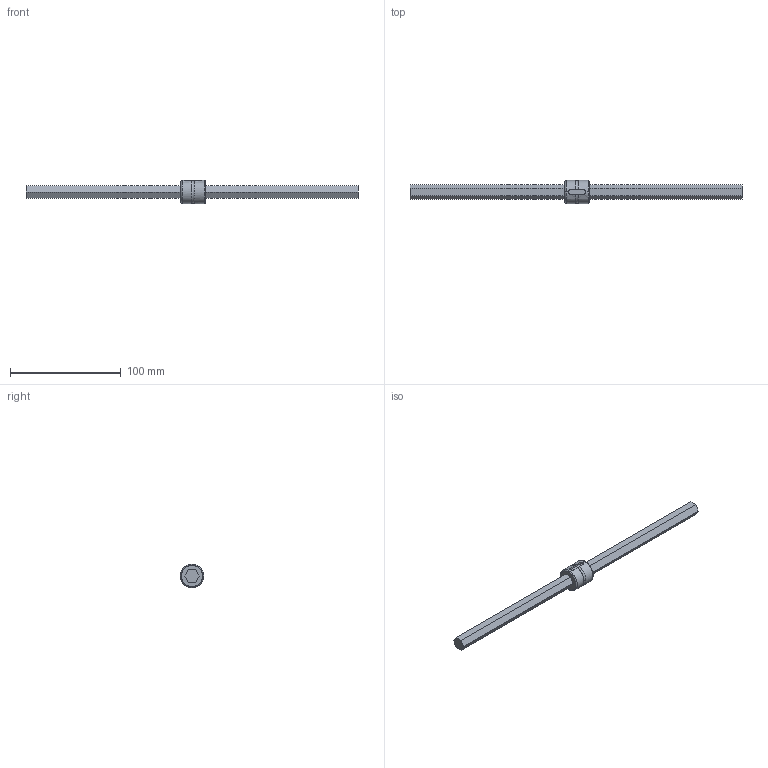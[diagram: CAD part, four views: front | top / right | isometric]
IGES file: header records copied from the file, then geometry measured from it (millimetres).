
Global section: file name: No Iges File Name specified; native system: AutoDesk Inventor R10; preprocessor: AutoDesk Inventor Iges Exporter R10; author: No Author specified; organization: No Organization specified; date: 20101224.162726; units: millimetre
Bounding box: 300 x 21 x 21 mm (x, y, z)
Surface area: 14531.6 mm2 (no closed solid volume)
Topology: 0 solids, 0 shells, 45 faces, 309 edges, 309 vertices
Faces by surface type: bspline 45
